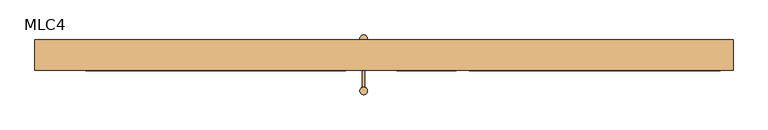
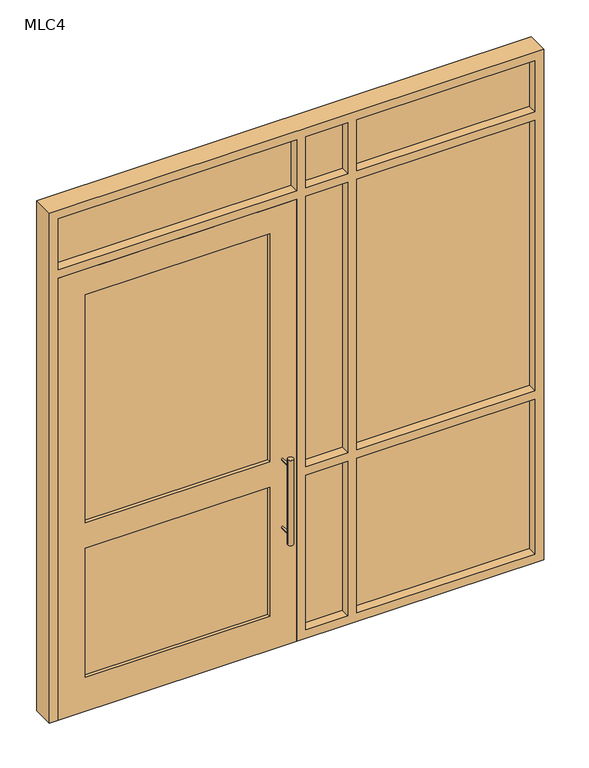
"""IFC4 building model written with IfcOpenShell, lengths in millimetres: door geometry, 单嵌板连窗玻璃门 1 : MLC4."""

from ifc_helpers import new_model, si_unit, point, frame, frame_2d, origin, place, context, project, spatial, polyline, circle_curve, trimmed, segment, composite_curve, outline, extrude, source, transform, mapped, element, save


def mlc4_2eb1c427(model_context):
    return source(origin(), model_context, "Body", "SweptSolid", [
        extrude(outline(composite_curve([segment(trimmed(circle_curve(frame_2d((-80.0, -130.0)), 15.0), [point((-95.0, -130.0))], [point((-65.0, -130.0))], False, "CARTESIAN"), True, "CONTINUOUS"), segment(trimmed(circle_curve(frame_2d((-80.0, -130.0)), 15.0), [point((-65.0, -130.0))], [point((-95.0, -130.0))], False, "CARTESIAN"), True, "CONTINUOUS")], self_intersect=False)), frame((0.0, 0.0, 650.0), z_axis=(0.0, 0.0, 1.0), x_axis=(1.0, 0.0, 0.0)), (0.0, 0.0, 1.0), 500.0),
        extrude(outline(composite_curve([segment(trimmed(circle_curve(frame_2d((1100.0, -80.0)), 5.0), [point((1100.0, -85.0))], [point((1100.0, -75.0))], False, "CARTESIAN"), True, "CONTINUOUS"), segment(trimmed(circle_curve(frame_2d((1100.0, -80.0)), 5.0), [point((1100.0, -75.0))], [point((1100.0, -85.0))], False, "CARTESIAN"), True, "CONTINUOUS")], self_intersect=False)), frame((0.0, -130.0, 0.0), z_axis=(0.0, 1.0, 0.0), x_axis=(0.0, 0.0, 1.0)), (0.0, 0.0, 1.0), 80.0),
        extrude(outline(composite_curve([segment(trimmed(circle_curve(frame_2d((700.0, -80.0)), 5.0), [point((700.0, -85.0))], [point((700.0, -75.0))], False, "CARTESIAN"), True, "CONTINUOUS"), segment(trimmed(circle_curve(frame_2d((700.0, -80.0)), 5.0), [point((700.0, -75.0))], [point((700.0, -85.0))], False, "CARTESIAN"), True, "CONTINUOUS")], self_intersect=False)), frame((0.0, -130.0, 0.0), z_axis=(0.0, 1.0, 0.0), x_axis=(0.0, 0.0, 1.0)), (0.0, 0.0, 1.0), 80.0),
        extrude(outline(composite_curve([segment(trimmed(circle_curve(frame_2d((1100.0, -80.0)), 5.0), [point((1100.0, -85.0))], [point((1100.0, -75.0))], False, "CARTESIAN"), True, "CONTINUOUS"), segment(trimmed(circle_curve(frame_2d((1100.0, -80.0)), 5.0), [point((1100.0, -75.0))], [point((1100.0, -85.0))], False, "CARTESIAN"), True, "CONTINUOUS")], self_intersect=False)), frame((0.0, -5.0, 0.0), z_axis=(0.0, 1.0, 0.0), x_axis=(0.0, 0.0, 1.0)), (0.0, 0.0, 1.0), 80.0),
        extrude(outline(composite_curve([segment(trimmed(circle_curve(frame_2d((700.0, -80.0)), 5.0), [point((700.0, -85.0))], [point((700.0, -75.0))], False, "CARTESIAN"), True, "CONTINUOUS"), segment(trimmed(circle_curve(frame_2d((700.0, -80.0)), 5.0), [point((700.0, -75.0))], [point((700.0, -85.0))], False, "CARTESIAN"), True, "CONTINUOUS")], self_intersect=False)), frame((0.0, -5.0, 0.0), z_axis=(0.0, 1.0, 0.0), x_axis=(0.0, 0.0, 1.0)), (0.0, 0.0, 1.0), 80.0),
        extrude(outline(composite_curve([segment(trimmed(circle_curve(frame_2d((-80.0, 75.0)), 15.0), [point((-95.0, 75.0))], [point((-65.0, 75.0))], False, "CARTESIAN"), True, "CONTINUOUS"), segment(trimmed(circle_curve(frame_2d((-80.0, 75.0)), 15.0), [point((-65.0, 75.0))], [point((-95.0, 75.0))], False, "CARTESIAN"), True, "CONTINUOUS")], self_intersect=False)), frame((0.0, 0.0, 650.0), z_axis=(0.0, 0.0, 1.0), x_axis=(1.0, 0.0, 0.0)), (0.0, 0.0, 1.0), 500.0),
        extrude(outline(polyline([(-150.0, -24.325), (-150.0, -30.675), (-1175.0, -30.675), (-1175.0, -24.325), (-150.0, -24.325)])), frame((0.0, 0.0, 200.0), z_axis=(0.0, 0.0, 1.0), x_axis=(1.0, 0.0, 0.0)), (0.0, 0.0, 1.0), 760.0),
        extrude(outline(polyline([(-150.0, -24.325), (-150.0, -30.675), (-1175.0, -30.675), (-1175.0, -24.325), (-150.0, -24.325)])), frame((0.0, 0.0, 1110.0), z_axis=(0.0, 0.0, 1.0), x_axis=(1.0, 0.0, 0.0)), (0.0, 0.0, 1.0), 1340.0),
        extrude(outline(polyline([(2600.0, -1325.0), (0.0, -1325.0), (0.0, 0.0), (2600.0, 0.0), (2600.0, -1325.0)]), holes=[polyline([(2450.0, -1175.0), (2450.0, -150.0), (1110.0, -150.0), (1110.0, -1175.0), (2450.0, -1175.0)]), polyline([(960.0, -150.0), (200.0, -150.0), (200.0, -1175.0), (960.0, -1175.0), (960.0, -150.0)])]), frame((0.0, -50.0, 0.0), z_axis=(0.0, 1.0, 0.0), x_axis=(0.0, 0.0, 1.0)), (0.0, 0.0, 1.0), 45.0),
        extrude(outline(polyline([(1325.0, 16.4), (1325.0, 3.6), (334.8, 3.6), (334.8, 16.4), (1325.0, 16.4)])), frame((0.0, 0.0, 1010.0), z_axis=(0.0, 0.0, 1.0), x_axis=(1.0, 0.0, 0.0)), (0.0, 0.0, 1.0), 1590.0),
        extrude(outline(polyline([(1325.0, 16.4), (1325.0, 3.6), (334.8, 3.6), (334.8, 16.4), (1325.0, 16.4)])), frame((0.0, 0.0, 50.0), z_axis=(0.0, 0.0, 1.0), x_axis=(1.0, 0.0, 0.0)), (0.0, 0.0, 1.0), 910.0),
        extrude(outline(polyline([(284.8, 16.4), (284.8, 3.6), (50.0, 3.6), (50.0, 16.4), (284.8, 16.4)])), frame((0.0, 0.0, 50.0), z_axis=(0.0, 0.0, 1.0), x_axis=(1.0, 0.0, 0.0)), (0.0, 0.0, 1.0), 910.0),
        extrude(outline(polyline([(284.8, 16.4), (284.8, 3.6), (50.0, 3.6), (50.0, 16.4), (284.8, 16.4)])), frame((0.0, 0.0, 1010.0), z_axis=(0.0, 0.0, 1.0), x_axis=(1.0, 0.0, 0.0)), (0.0, 0.0, 1.0), 1590.0),
        extrude(outline(polyline([(284.8, 16.4), (284.8, 3.6), (50.0, 3.6), (50.0, 16.4), (284.8, 16.4)])), frame((0.0, 0.0, 2650.0), z_axis=(0.0, 0.0, 1.0), x_axis=(1.0, 0.0, 0.0)), (0.0, 0.0, 1.0), 300.0),
        extrude(outline(polyline([(1325.0, 16.4), (1325.0, 3.6), (334.8, 3.6), (334.8, 16.4), (1325.0, 16.4)])), frame((0.0, 0.0, 2650.0), z_axis=(0.0, 0.0, 1.0), x_axis=(1.0, 0.0, 0.0)), (0.0, 0.0, 1.0), 300.0),
        extrude(outline(polyline([(0.0, 16.4), (0.0, 3.6), (-1325.0, 3.6), (-1325.0, 16.4), (0.0, 16.4)])), frame((0.0, 0.0, 2650.0), z_axis=(0.0, 0.0, 1.0), x_axis=(1.0, 0.0, 0.0)), (0.0, 0.0, 1.0), 300.0),
        extrude(outline(polyline([(0.0, 1375.0), (3000.0, 1375.0), (3000.0, -1375.0), (0.0, -1375.0), (0.0, -1325.0), (2600.0, -1325.0), (2600.0, 0.0), (0.0, 0.0), (0.0, 1375.0)]), holes=[polyline([(960.0, 1325.0), (50.0, 1325.0), (50.0, 334.8), (960.0, 334.8), (960.0, 1325.0)]), polyline([(2600.0, 334.8), (2600.0, 1325.0), (1010.0, 1325.0), (1010.0, 334.8), (2600.0, 334.8)]), polyline([(50.0, 284.8), (50.0, 50.0), (960.0, 50.0), (960.0, 284.8), (50.0, 284.8)]), polyline([(2650.0, 334.8), (2950.0, 334.8), (2950.0, 1325.0), (2650.0, 1325.0), (2650.0, 334.8)]), polyline([(2950.0, 284.8), (2650.0, 284.8), (2650.0, 50.0), (2950.0, 50.0), (2950.0, 284.8)]), polyline([(2650.0, -1325.0), (2950.0, -1325.0), (2950.0, 0.0), (2650.0, 0.0), (2650.0, -1325.0)]), polyline([(2600.0, 50.0), (2600.0, 284.8), (1010.0, 284.8), (1010.0, 50.0), (2600.0, 50.0)])]), frame((0.0, -50.0, 0.0), z_axis=(0.0, 1.0, 0.0), x_axis=(0.0, 0.0, 1.0)), (0.0, 0.0, 1.0), 120.0),
    ])


if __name__ == "__main__":
    model = new_model("IFC4")
    model_context = context("Model", 3, world=origin())
    ifc_project = project(units=[si_unit("LENGTHUNIT", "METRE", prefix="MILLI")], contexts=[model_context])
    site = spatial("IfcSite", under=ifc_project)
    building = spatial("IfcBuilding", under=site)
    placement = place(None, origin())
    mlc4_shape = mlc4_2eb1c427(model_context)
    element("IfcDoor", 1, ObjectType="单嵌板连窗玻璃门 1 : MLC4", at=placement, inside=building, context=model_context, shape_type="MappedRepresentation", body=[
        mapped(mlc4_shape, transform((0.0, 0.0, 0.0), x_axis=(1.0, 0.0, 0.0), y_axis=(0.0, 1.0, 0.0), z_axis=(0.0, 0.0, 1.0))),
    ])
    save(model, "model.ifc")
